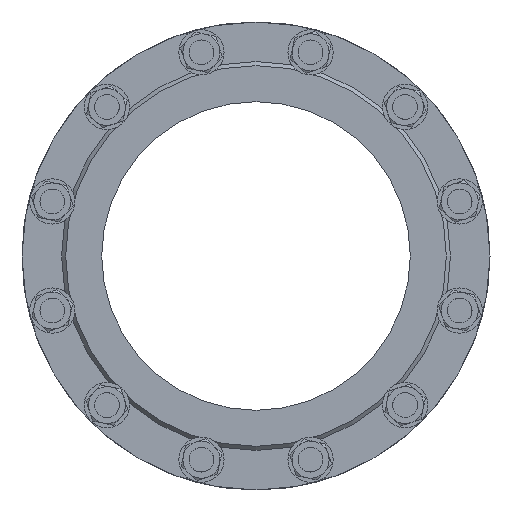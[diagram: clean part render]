
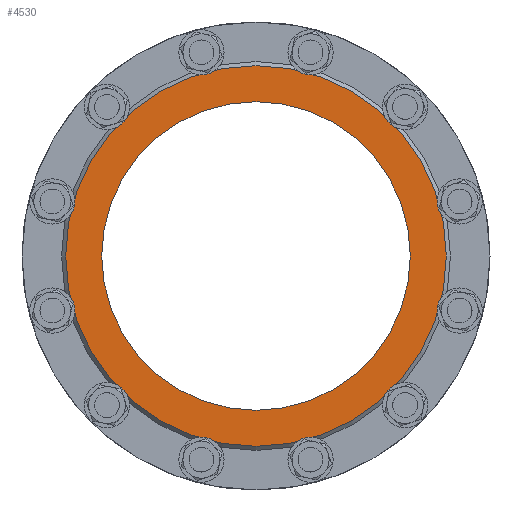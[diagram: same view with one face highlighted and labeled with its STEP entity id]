
A CAD part, left-side view. The second image highlights one B-rep face of the part: STEP entity #4530.
In plain terms, the highlighted planar face has unit normal (-1, 0, 0).
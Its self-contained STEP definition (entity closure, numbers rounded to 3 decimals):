
#4530 = ADVANCED_FACE ( 'NONE', ( #42262, #8472 ), #22162, .F. ) ;
#4552 = DIRECTION ( 'NONE',  ( -1., 0., 0. ) ) ;
#5109 = DIRECTION ( 'NONE',  ( 1., 0., 0. ) ) ;
#8146 = AXIS2_PLACEMENT_3D ( 'NONE', #42919, #5109, #31859 ) ;
#8472 = FACE_OUTER_BOUND ( 'NONE', #40899, .T. ) ;
#8561 = ORIENTED_EDGE ( 'NONE', *, *, #38512, .T. ) ;
#9993 = CARTESIAN_POINT ( 'NONE',  ( -15., 0., 0. ) ) ;
#13806 = CARTESIAN_POINT ( 'NONE',  ( -15., 0., 0. ) ) ;
#15958 = VERTEX_POINT ( 'NONE', #37334 ) ;
#18230 = DIRECTION ( 'NONE',  ( 0., -1., 0. ) ) ;
#21111 = VERTEX_POINT ( 'NONE', #35944 ) ;
#21977 = ORIENTED_EDGE ( 'NONE', *, *, #28663, .T. ) ;
#22162 = PLANE ( 'NONE',  #8146 ) ;
#23767 = AXIS2_PLACEMENT_3D ( 'NONE', #9993, #30232, #37231 ) ;
#28663 = EDGE_CURVE ( 'NONE', #15958, #15958, #36743, .T. ) ;
#30232 = DIRECTION ( 'NONE',  ( 1., 0., 0. ) ) ;
#31859 = DIRECTION ( 'NONE',  ( 0., 1., 0. ) ) ;
#32586 = AXIS2_PLACEMENT_3D ( 'NONE', #13806, #4552, #18230 ) ;
#34750 = CIRCLE ( 'NONE', #32586, 185. ) ;
#35944 = CARTESIAN_POINT ( 'NONE',  ( -15., -185., 0. ) ) ;
#36743 = CIRCLE ( 'NONE', #23767, 150. ) ;
#37231 = DIRECTION ( 'NONE',  ( 0., 0., -1. ) ) ;
#37334 = CARTESIAN_POINT ( 'NONE',  ( -15., 0., -150. ) ) ;
#38512 = EDGE_CURVE ( 'NONE', #21111, #21111, #34750, .T. ) ;
#40899 = EDGE_LOOP ( 'NONE', ( #8561 ) ) ;
#42230 = EDGE_LOOP ( 'NONE', ( #21977 ) ) ;
#42262 = FACE_BOUND ( 'NONE', #42230, .T. ) ;
#42919 = CARTESIAN_POINT ( 'NONE',  ( -15., 0., 150. ) ) ;
